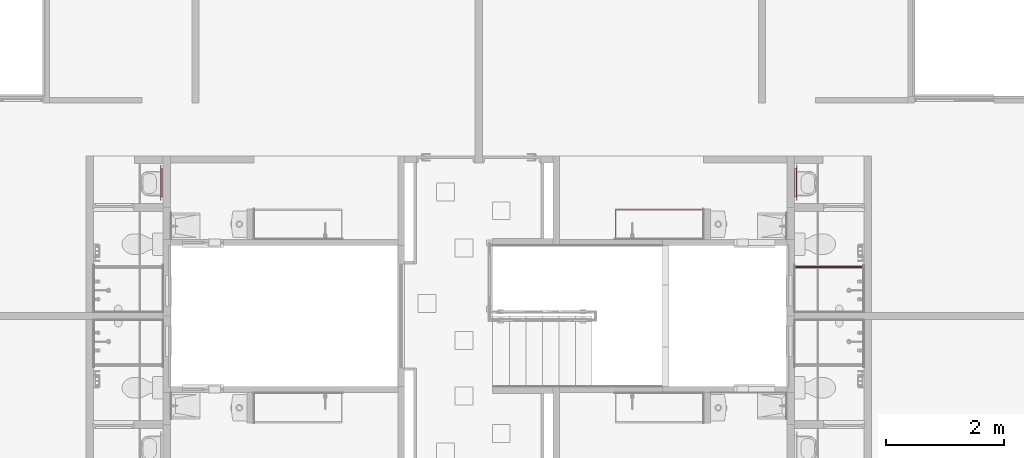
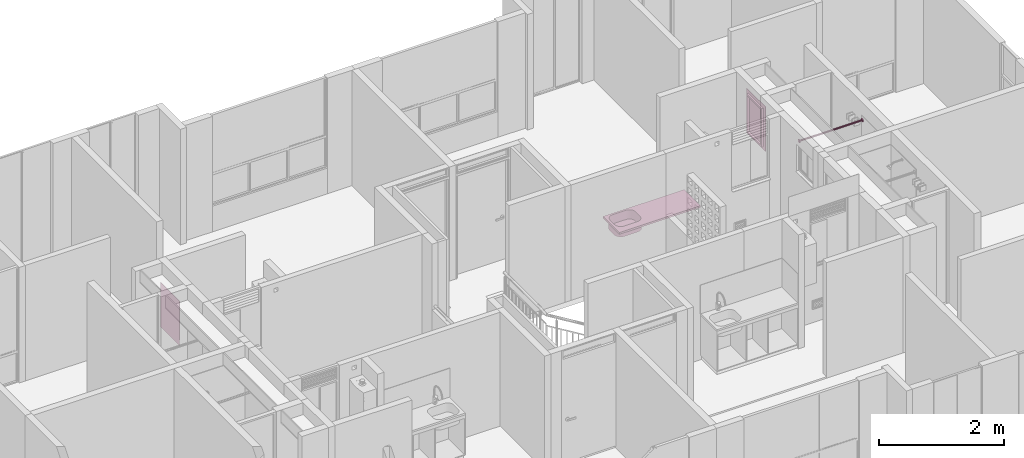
# One storey, part 43 of 47: 4 furniture elements.
"""IFC4 building model written with IfcOpenShell, lengths in metres."""

from ifc_helpers import new_model, entity, si_unit, converted_unit, derived_unit, direction, frame, origin, place, context, subcontext, project, spatial, arc, indexed_curve, outline, extrude, polygons, source, transform, mapped, material, constituent, constituent_set, type_object, type_shapes, element, save


model = new_model("IFC4")

# Units and contexts
model_context = context("Model", 3, precision=1e-05, world=origin(), true_north=direction((6.123031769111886e-17, 1.0)))
body_context = subcontext(model_context, "Body", "Model", "MODEL_VIEW")
ifc_project = project(units=[si_unit("LENGTHUNIT", "METRE"), si_unit("AREAUNIT", "SQUARE_METRE"), si_unit("VOLUMEUNIT", "CUBIC_METRE"), converted_unit("PLANEANGLEUNIT", "DEGREE", entity("IfcRatioMeasure", 0.017453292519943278), si_unit("PLANEANGLEUNIT", "RADIAN"), dimensions=[0, 0, 0, 0, 0, 0, 0]), si_unit("MASSUNIT", "GRAM", prefix="KILO"), derived_unit("MASSDENSITYUNIT", [(si_unit("MASSUNIT", "GRAM", prefix="KILO"), 1), (si_unit("LENGTHUNIT", "METRE"), -3)]), derived_unit("IONCONCENTRATIONUNIT", [(si_unit("MASSUNIT", "GRAM", prefix="KILO"), 1), (si_unit("LENGTHUNIT", "METRE"), -3)]), derived_unit("MOMENTOFINERTIAUNIT", [(si_unit("LENGTHUNIT", "METRE"), 4)]), si_unit("TIMEUNIT", "SECOND"), si_unit("FREQUENCYUNIT", "HERTZ"), si_unit("THERMODYNAMICTEMPERATUREUNIT", "DEGREE_CELSIUS"), derived_unit("THERMALTRANSMITTANCEUNIT", [(si_unit("MASSUNIT", "GRAM", prefix="KILO"), 1), (si_unit("THERMODYNAMICTEMPERATUREUNIT", "KELVIN"), -1), (si_unit("TIMEUNIT", "SECOND"), -3)]), derived_unit("THERMALCONDUCTANCEUNIT", [(si_unit("MASSUNIT", "GRAM", prefix="KILO"), 1), (si_unit("THERMODYNAMICTEMPERATUREUNIT", "KELVIN"), -1), (si_unit("TIMEUNIT", "SECOND"), -3), (si_unit("LENGTHUNIT", "METRE"), 1)]), derived_unit("VOLUMETRICFLOWRATEUNIT", [(si_unit("LENGTHUNIT", "METRE"), 3), (si_unit("TIMEUNIT", "SECOND"), -1)]), derived_unit("MASSFLOWRATEUNIT", [(si_unit("MASSUNIT", "GRAM", prefix="KILO"), 1), (si_unit("TIMEUNIT", "SECOND"), -1)]), derived_unit("ROTATIONALFREQUENCYUNIT", [(si_unit("TIMEUNIT", "SECOND"), -1)]), si_unit("ELECTRICCURRENTUNIT", "AMPERE"), si_unit("ELECTRICVOLTAGEUNIT", "VOLT"), si_unit("POWERUNIT", "WATT"), si_unit("FORCEUNIT", "NEWTON", prefix="KILO"), si_unit("ILLUMINANCEUNIT", "LUX"), si_unit("LUMINOUSFLUXUNIT", "LUMEN"), si_unit("LUMINOUSINTENSITYUNIT", "CANDELA"), derived_unit("USERDEFINED", [(si_unit("MASSUNIT", "GRAM", prefix="KILO"), -1), (si_unit("LENGTHUNIT", "METRE"), -2), (si_unit("TIMEUNIT", "SECOND"), 3), (si_unit("LUMINOUSFLUXUNIT", "LUMEN"), 1)]), derived_unit("USERDEFINED", [(si_unit("MASSUNIT", "GRAM", prefix="KILO"), 1), (si_unit("TIMEUNIT", "SECOND"), -3), (si_unit("LENGTHUNIT", "METRE"), 3), (si_unit("ELECTRICCURRENTUNIT", "AMPERE"), -2)]), derived_unit("SOUNDPOWERUNIT", [(si_unit("MASSUNIT", "GRAM", prefix="KILO"), 1), (si_unit("TIMEUNIT", "SECOND"), -3), (si_unit("LENGTHUNIT", "METRE"), 2)]), derived_unit("SOUNDPRESSUREUNIT", [(si_unit("MASSUNIT", "GRAM", prefix="KILO"), 1), (si_unit("LENGTHUNIT", "METRE"), -1), (si_unit("TIMEUNIT", "SECOND"), -2)]), derived_unit("LINEARVELOCITYUNIT", [(si_unit("LENGTHUNIT", "METRE"), 1), (si_unit("TIMEUNIT", "SECOND"), -1)]), si_unit("PRESSUREUNIT", "PASCAL"), derived_unit("USERDEFINED", [(si_unit("MASSUNIT", "GRAM", prefix="KILO"), 1), (si_unit("LENGTHUNIT", "METRE"), -2), (si_unit("TIMEUNIT", "SECOND"), -2)]), derived_unit("LINEARFORCEUNIT", [(si_unit("MASSUNIT", "GRAM", prefix="KILO"), 1), (si_unit("TIMEUNIT", "SECOND"), -2)]), derived_unit("PLANARFORCEUNIT", [(si_unit("MASSUNIT", "GRAM", prefix="KILO"), 1), (si_unit("LENGTHUNIT", "METRE"), -1), (si_unit("TIMEUNIT", "SECOND"), -2)]), derived_unit("SPECIFICHEATCAPACITYUNIT", [(si_unit("THERMODYNAMICTEMPERATUREUNIT", "KELVIN"), -1), (si_unit("LENGTHUNIT", "METRE"), 2), (si_unit("TIMEUNIT", "SECOND"), -2)]), derived_unit("HEATINGVALUEUNIT", [(si_unit("LENGTHUNIT", "METRE"), 2), (si_unit("TIMEUNIT", "SECOND"), -2)]), derived_unit("VAPORPERMEABILITYUNIT", [(si_unit("LENGTHUNIT", "METRE"), -1), (si_unit("TIMEUNIT", "SECOND"), 1)]), derived_unit("DYNAMICVISCOSITYUNIT", [(si_unit("MASSUNIT", "GRAM", prefix="KILO"), 1), (si_unit("TIMEUNIT", "SECOND"), -1), (si_unit("LENGTHUNIT", "METRE"), -1)]), derived_unit("THERMALEXPANSIONCOEFFICIENTUNIT", [(si_unit("THERMODYNAMICTEMPERATUREUNIT", "KELVIN"), -1)]), derived_unit("MODULUSOFELASTICITYUNIT", [(si_unit("MASSUNIT", "GRAM", prefix="KILO"), 1), (si_unit("LENGTHUNIT", "METRE"), -1), (si_unit("TIMEUNIT", "SECOND"), -2)]), derived_unit("ISOTHERMALMOISTURECAPACITYUNIT", [(si_unit("LENGTHUNIT", "METRE"), 3), (si_unit("MASSUNIT", "GRAM", prefix="KILO"), -1)]), derived_unit("MOISTUREDIFFUSIVITYUNIT", [(si_unit("TIMEUNIT", "SECOND"), -1), (si_unit("LENGTHUNIT", "METRE"), 2)])], contexts=[model_context])

# Site, building, storey
site_placement = place(None, origin())
site = spatial("IfcSite", under=ifc_project, at=site_placement, Name="Default", CompositionType="ELEMENT")
building_placement = place(site_placement, origin())
building = spatial("IfcBuilding", under=site, at=building_placement, CompositionType="ELEMENT")
storey_placement = place(building_placement, frame((0.0, 0.0, 11.750000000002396)))
storey = spatial("IfcBuildingStorey", under=building, at=storey_placement, Name="Nivel 6", CompositionType="ELEMENT", Elevation=11.750000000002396)

# Furniture
ifc_material_1 = material(Name="Aluminio", Category="Materials")
ifc_constituent_1 = constituent(ifc_material_1, Name="Aluminio", Category="Materials")
ifc_material_2 = material(Name="ESPEJO", Category="Materials")
ifc_constituent_2 = constituent(ifc_material_2, Name="ESPEJO", Category="Materials")
ifc_constituent_set_1 = constituent_set(constituents=[ifc_constituent_1, ifc_constituent_2])
ifc_constituent_3 = constituent(ifc_material_1, Name="Aluminio", Category="Materials")
ifc_constituent_4 = constituent(ifc_material_2, Name="ESPEJO", Category="Materials")
ifc_constituent_set_2 = constituent_set(constituents=[ifc_constituent_3, ifc_constituent_4])
furniture_type_1 = type_object("IfcFurnitureType", Name="E2050 - Espejo:E2050 - 0.60m x 0.87m - Espejo", AssemblyPlace="NOTDEFINED", PredefinedType="NOTDEFINED", material=ifc_constituent_set_2)
shared_shape_1 = source(origin(), body_context, "Body", "SweptSolid", [
    extrude(outline(indexed_curve([(-0.23999999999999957, -0.3749999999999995), (0.2399999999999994, -0.3749999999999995), (0.2399999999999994, 0.37499999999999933), (-0.23999999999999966, 0.3749999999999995), (-0.23999999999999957, -0.3749999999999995)], self_intersect=False), holes=[indexed_curve([(0.2149999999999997, -0.34999999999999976), (-0.21499999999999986, -0.34999999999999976), (-0.21499999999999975, 0.34999999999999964), (0.2149999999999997, 0.34999999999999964), (0.2149999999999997, -0.34999999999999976)], self_intersect=False)]), frame((0.12499999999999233, 0.062499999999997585, 1.485), z_axis=(0.0, 1.0, 0.0), x_axis=(1.0, 0.0, 0.0)), (0.0, 0.0, 1.0), 0.037500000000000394),
    extrude(outline(indexed_curve([(-0.00350000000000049, -0.30000000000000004), (0.00350000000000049, -0.30000000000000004), (0.00350000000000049, 0.30000000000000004), (-0.00350000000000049, 0.30000000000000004), (-0.00350000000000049, -0.30000000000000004)], self_intersect=False)), frame((0.1249999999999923, 0.10350000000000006, 1.05), z_axis=(0.0, 0.0, 1.0), x_axis=(0.0, 1.0, 0.0)), (0.0, 0.0, 1.0), 0.87),
])
type_shapes(furniture_type_1, [shared_shape_1])
furniture_1_placement = place(storey_placement, frame((14.620000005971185, -4.035000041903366, -0.020000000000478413), z_axis=(0.0, 0.0, 1.0), x_axis=(0.0, -1.0, 0.0)))
element("IfcFurniture", 1, at=furniture_1_placement, inside=storey, type_object=furniture_type_1, material=ifc_constituent_set_1, Name="E2050 - Espejo:E2050 - 0.60m x 0.87m - Espejo", ObjectType="E2050 - Espejo:E2050 - 0.60m x 0.87m - Espejo", PredefinedType="NOTDEFINED", context=body_context, shape_type="MappedRepresentation", body=[
    mapped(shared_shape_1, transform((0.0, 0.0, 0.0), scale=1.0)),
])
ifc_constituent_5 = constituent(ifc_material_1, Name="Aluminio", Category="Materials")
ifc_constituent_6 = constituent(ifc_material_2, Name="ESPEJO", Category="Materials")
ifc_constituent_set_3 = constituent_set(constituents=[ifc_constituent_5, ifc_constituent_6])
ifc_constituent_7 = constituent(ifc_material_1, Name="Aluminio", Category="Materials")
ifc_constituent_8 = constituent(ifc_material_2, Name="ESPEJO", Category="Materials")
ifc_constituent_set_4 = constituent_set(constituents=[ifc_constituent_7, ifc_constituent_8])
furniture_type_2 = type_object("IfcFurnitureType", Name="E2050 - Espejo:E2050 - 0.60m x 0.87m - Espejo", AssemblyPlace="NOTDEFINED", PredefinedType="NOTDEFINED", material=ifc_constituent_set_4)
shared_shape_2 = source(origin(), body_context, "Body", "SweptSolid", [
    extrude(outline(indexed_curve([(-0.3749999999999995, -0.2399999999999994), (0.37499999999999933, -0.23999999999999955), (0.3749999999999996, 0.2399999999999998), (-0.3749999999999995, 0.23999999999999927), (-0.3749999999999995, -0.2399999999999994)], self_intersect=False), holes=[indexed_curve([(-0.34999999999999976, 0.21499999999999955), (0.34999999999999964, 0.21499999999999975), (0.34999999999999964, -0.21499999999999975), (-0.34999999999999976, -0.21499999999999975), (-0.34999999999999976, 0.21499999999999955)], self_intersect=False)]), frame((0.12499999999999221, -0.09999999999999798, 1.485), z_axis=(0.0, 1.0, 0.0), x_axis=(0.0, 0.0, -1.0)), (0.0, 0.0, 1.0), 0.037500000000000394),
    extrude(outline(indexed_curve([(-0.30000000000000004, -0.00350000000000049), (0.30000000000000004, -0.00350000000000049), (0.30000000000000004, 0.00350000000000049), (-0.30000000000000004, 0.00350000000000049), (-0.30000000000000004, -0.00350000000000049)], self_intersect=False)), frame((0.1249999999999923, -0.10350000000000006, 1.05), z_axis=(0.0, 0.0, 1.0), x_axis=(-1.0, 0.0, 0.0)), (0.0, 0.0, 1.0), 0.87),
])
type_shapes(furniture_type_2, [shared_shape_2])
furniture_2_placement = place(storey_placement, frame((4.024999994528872, -4.035000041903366, -0.020000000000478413), z_axis=(0.0, 0.0, 1.0), x_axis=(0.0, -1.0, 0.0)))
element("IfcFurniture", 2, at=furniture_2_placement, inside=storey, type_object=furniture_type_2, material=ifc_constituent_set_3, Name="E2050 - Espejo:E2050 - 0.60m x 0.87m - Espejo", ObjectType="E2050 - Espejo:E2050 - 0.60m x 0.87m - Espejo", PredefinedType="NOTDEFINED", context=body_context, shape_type="MappedRepresentation", body=[
    mapped(shared_shape_2, transform((0.0, 0.0, 0.0), scale=1.0)),
])

# Space
space_1_placement = place(storey_placement, origin())
space_1 = spatial("IfcSpace", under=storey, at=space_1_placement, Name="334", CompositionType="ELEMENT", PredefinedType="SPACE")

# Furniture
ifc_material_3 = material(Name="<Unnamed>")
furniture_type_3 = type_object("IfcFurnitureType", Name="Barra baño:E2050- Barra Baño- Acero inoxidable", AssemblyPlace="NOTDEFINED", PredefinedType="NOTDEFINED", material=ifc_material_3)
shared_shape_3 = source(origin(), body_context, "Body", "SweptSolid", [
    extrude(outline(indexed_curve([(-0.025, 0.0), (-9.341026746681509e-17, -0.025), (0.025, 2.707167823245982e-16), (-1.316959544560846e-16, 0.025)], segments=[arc(1, 2, 3), arc(3, 4, 1)], self_intersect=False)), frame((-1.1599989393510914, 0.0, 1.8000000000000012), z_axis=(1.0, 0.0, 0.0), x_axis=(0.0, 1.0, 0.0)), (0.0, 0.0, 1.0), 0.005000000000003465),
    extrude(outline(indexed_curve([(-0.03, 0.0), (-1.1209232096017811e-16, -0.029999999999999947), (0.03, 2.707167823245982e-16), (-1.3138979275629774e-16, 0.029999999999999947)], segments=[arc(1, 2, 3), arc(3, 4, 1)], self_intersect=False)), frame((-1.164998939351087, 0.0, 1.8000000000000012), z_axis=(1.0, 0.0, 0.0), x_axis=(0.0, 1.0, 0.0)), (0.0, 0.0, 1.0), 0.0049999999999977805),
    extrude(outline(indexed_curve([(-0.0125, 0.0), (-4.6705133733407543e-17, -0.012499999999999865), (0.0125, 0.0), (7.654042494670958e-19, 0.012499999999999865)], segments=[arc(1, 2, 3), arc(3, 4, 1)], self_intersect=False)), frame((-1.1549989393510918, 0.0, 1.7999999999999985), z_axis=(1.0, 0.0, 0.0), x_axis=(0.0, 1.0, 0.0)), (0.0, 0.0, 1.0), 1.149998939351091),
    extrude(outline(indexed_curve([(-0.025, 0.0), (-2.2663703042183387e-16, -0.025), (0.025, 0.0), (1.5308084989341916e-18, 0.025)], segments=[arc(1, 2, 3), arc(3, 4, 1)], self_intersect=False)), frame((-0.005000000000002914, 0.0, 1.7999999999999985), z_axis=(1.0, 0.0, 0.0), x_axis=(0.0, 1.0, 0.0)), (0.0, 0.0, 1.0), 0.005000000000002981),
    extrude(outline(indexed_curve([(-0.03, 0.0), (-2.1867373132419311e-16, -0.029999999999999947), (0.03, 0.0), (1.8369701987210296e-18, 0.029999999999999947)], segments=[arc(1, 2, 3), arc(3, 4, 1)], self_intersect=False)), frame((0.0, 0.0, 1.7999999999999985), z_axis=(1.0, 0.0, 0.0), x_axis=(0.0, 1.0, 0.0)), (0.0, 0.0, 1.0), 0.00499999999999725),
])
type_shapes(furniture_type_3, [shared_shape_3])
furniture_3_placement = place(space_1_placement, frame((14.69250000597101, -5.590000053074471, 0.12999999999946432), z_axis=(0.0, 0.0, 1.0), x_axis=(-1.0, 0.0, 0.0)))
element("IfcFurniture", 3, at=furniture_3_placement, inside=space_1, type_object=furniture_type_3, material=ifc_material_3, Name="Barra baño:E2050- Barra Baño- Acero inoxidable", ObjectType="Barra baño:E2050- Barra Baño- Acero inoxidable", PredefinedType="NOTDEFINED", context=body_context, shape_type="MappedRepresentation", body=[
    mapped(shared_shape_3, transform((0.0, 0.0, 0.0), scale=1.0)),
])

# Space
space_2_placement = place(storey_placement, origin())
space_2 = spatial("IfcSpace", under=storey, at=space_2_placement, Name="337", CompositionType="ELEMENT", PredefinedType="SPACE")

# Furniture
ifc_material_4 = material(Name="Mesón cocina", Category="Materials")
furniture_type_4 = type_object("IfcFurnitureType", Name="E1060 - Meson Socoda Radiante - 1.50 X 0.52 - Acero inoxidable:E1060 - 1.50 x 0.52 - Meson de cocina, lavadero y estufa - Acero inoxidable", AssemblyPlace="NOTDEFINED", PredefinedType="NOTDEFINED", material=ifc_material_4)
shared_shape_4 = source(origin(), body_context, "Body", "Tessellation", [
    polygons([(0.7500000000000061, 0.2600000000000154, 0.03499999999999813), (-0.7499999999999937, 0.2600000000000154, 0.03499999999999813), (-0.7499999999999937, -0.2600000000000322, 0.03499999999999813), (0.7500000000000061, -0.2600000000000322, 0.03499999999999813), (0.23610399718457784, 0.03077661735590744, 0.03499999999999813), (0.23985215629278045, 0.05924671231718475, 0.03499999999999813), (0.2508412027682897, 0.08577661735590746, 0.03499999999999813), (0.2683222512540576, 0.10855836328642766, 0.03499999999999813), (0.2911039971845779, 0.1260394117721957, 0.03499999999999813), (0.31763390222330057, 0.13702845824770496, 0.03499999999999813), (0.3461039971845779, 0.1407766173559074, 0.03499999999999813), (0.593473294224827, 0.14077661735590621, 0.03499999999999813), (0.6219433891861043, 0.13702845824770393, 0.03499999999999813), (0.6484732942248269, 0.1260394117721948, 0.03499999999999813), (0.6712550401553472, 0.10855836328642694, 0.03499999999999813), (0.6887360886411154, 0.08577661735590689, 0.03499999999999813), (0.6997251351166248, 0.05924671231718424, 0.03499999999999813), (0.7034732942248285, 0.03077661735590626, 0.03499999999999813), (0.703473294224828, -0.11422338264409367, 0.03499999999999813), (0.6997251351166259, -0.14269347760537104, 0.03499999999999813), (0.6887360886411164, -0.1692233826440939, 0.03499999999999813), (0.6712550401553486, -0.1920051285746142, 0.03499999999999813), (0.6484732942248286, -0.20948617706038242, 0.03499999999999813), (0.6219433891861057, -0.22047522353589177, 0.03499999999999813), (0.5934732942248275, -0.22422338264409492, 0.03499999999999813), (0.3461039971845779, -0.22422338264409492, 0.03499999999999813), (0.31763390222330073, -0.22047522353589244, 0.03499999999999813), (0.2911039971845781, -0.20948617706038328, 0.03499999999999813), (0.2683222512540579, -0.1920051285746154, 0.03499999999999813), (0.2508412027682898, -0.1692233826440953, 0.03499999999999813), (0.23985215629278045, -0.14269347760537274, 0.03499999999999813), (0.23610399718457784, -0.11422338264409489, 0.03499999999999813), (0.7500000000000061, 0.2600000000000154, -1.8678232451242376e-15), (0.7500000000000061, -0.2600000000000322, -1.8678232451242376e-15), (-0.7499999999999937, -0.2600000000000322, -1.8678232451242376e-15), (-0.7499999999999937, 0.2600000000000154, -1.8678232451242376e-15), (0.5934732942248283, 0.1507766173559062, -1.8678232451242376e-15), (0.34610399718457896, 0.1507766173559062, -1.8678232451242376e-15), (0.31504571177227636, 0.1466877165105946, -1.8678232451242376e-15), (0.2861039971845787, 0.13469966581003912, -1.8678232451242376e-15), (0.2612511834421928, 0.11562943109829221, -1.8678232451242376e-15), (0.2421809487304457, 0.09077661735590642, -1.8678232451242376e-15), (0.23019289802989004, 0.06183490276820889, -1.8678232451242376e-15), (0.22610399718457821, 0.030776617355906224, -1.8678232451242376e-15), (0.22610399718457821, -0.11422338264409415, -1.8678232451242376e-15), (0.2301928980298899, -0.14528166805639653, -1.8678232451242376e-15), (0.24218094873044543, -0.17422338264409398, -1.8678232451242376e-15), (0.2612511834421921, -0.19907619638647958, -1.8678232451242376e-15), (0.2861039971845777, -0.2181464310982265, -1.8678232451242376e-15), (0.31504571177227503, -0.2301344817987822, -1.8678232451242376e-15), (0.3461039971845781, -0.23422338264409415, -1.8678232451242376e-15), (0.5934732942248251, -0.23422338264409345, -1.8678232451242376e-15), (0.6245315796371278, -0.2301344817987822, -1.8678232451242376e-15), (0.6534732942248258, -0.21814643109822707, -1.8678232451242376e-15), (0.6783261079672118, -0.19907619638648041, -1.8678232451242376e-15), (0.6973963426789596, -0.17422338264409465, -1.8678232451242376e-15), (0.7093843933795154, -0.14528166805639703, -1.8678232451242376e-15), (0.7134732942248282, -0.11422338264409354, -1.8678232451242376e-15), (0.7134732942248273, 0.030776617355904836, -1.8678232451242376e-15), (0.7093843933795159, 0.061834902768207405, -1.8678232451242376e-15), (0.6973963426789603, 0.09077661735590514, -1.8678232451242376e-15), (0.6783261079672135, 0.11562943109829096, -1.8678232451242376e-15), (0.6534732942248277, 0.13469966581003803, -1.8678232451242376e-15), (0.62453157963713, 0.1466877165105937, -1.8678232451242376e-15), (0.5934732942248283, 0.15077661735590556, -0.16000000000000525), (0.6245315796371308, 0.1466877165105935, -0.16000000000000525), (0.6534732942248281, 0.13469966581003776, -0.16000000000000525), (0.6783261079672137, 0.1156294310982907, -0.16000000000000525), (0.6973963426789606, 0.0907766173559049, -0.16000000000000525), (0.7093843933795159, 0.06183490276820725, -0.16000000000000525), (0.7134732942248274, 0.030776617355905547, -0.16000000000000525), (0.7134732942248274, -0.11422338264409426, -0.16000000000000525), (0.7093843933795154, -0.1452816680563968, -0.16000000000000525), (0.6973963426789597, -0.1742233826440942, -0.16000000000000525), (0.6783261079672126, -0.19907619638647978, -0.16000000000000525), (0.6534732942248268, -0.21814643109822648, -0.16000000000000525), (0.6245315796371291, -0.2301344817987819, -0.16000000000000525), (0.5934732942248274, -0.2342233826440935, -0.16000000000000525), (0.3461039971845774, -0.23422338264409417, -0.16000000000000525), (0.3150457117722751, -0.23013448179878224, -0.16000000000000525), (0.28610399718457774, -0.21814643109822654, -0.16000000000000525), (0.26125118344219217, -0.19907619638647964, -0.16000000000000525), (0.24218094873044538, -0.17422338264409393, -0.16000000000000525), (0.2301928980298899, -0.14528166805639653, -0.16000000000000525), (0.22610399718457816, -0.11422338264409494, -0.16000000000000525), (0.22610399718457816, 0.030776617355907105, -0.16000000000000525), (0.23019289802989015, 0.06183490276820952, -0.16000000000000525), (0.2421809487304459, 0.09077661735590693, -0.16000000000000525), (0.261251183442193, 0.11562943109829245, -0.16000000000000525), (0.2861039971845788, 0.13469966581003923, -0.16000000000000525), (0.31504571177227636, 0.1466877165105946, -0.16000000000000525), (0.3461039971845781, 0.1507766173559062, -0.16000000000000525), (0.3461039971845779, 0.14077661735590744, -0.14475899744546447), (0.31763390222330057, 0.13702845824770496, -0.14475899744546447), (0.2911039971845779, 0.1260394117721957, -0.14475899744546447), (0.2683222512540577, 0.10855836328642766, -0.14475899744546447), (0.25084120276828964, 0.08577661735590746, -0.14475899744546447), (0.2398521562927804, 0.05924671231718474, -0.14475899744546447), (0.23610399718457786, 0.03077661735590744, -0.14475899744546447), (0.23610399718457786, -0.11422338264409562, -0.14475899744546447), (0.23985215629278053, -0.14269347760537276, -0.14475899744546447), (0.25084120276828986, -0.16922338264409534, -0.14475899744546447), (0.2683222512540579, -0.19200512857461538, -0.14475899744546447), (0.2911039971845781, -0.20948617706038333, -0.14475899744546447), (0.31763390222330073, -0.22047522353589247, -0.14475899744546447), (0.3461039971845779, -0.2242233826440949, -0.14475899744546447), (0.5934732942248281, -0.22422338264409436, -0.14475899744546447), (0.6219433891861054, -0.22047522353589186, -0.14475899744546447), (0.6484732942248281, -0.20948617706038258, -0.14475899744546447), (0.6712550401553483, -0.19200512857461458, -0.14475899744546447), (0.6887360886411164, -0.16922338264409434, -0.14475899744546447), (0.6997251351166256, -0.14269347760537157, -0.14475899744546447), (0.7034732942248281, -0.11422338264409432, -0.14475899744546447), (0.7034732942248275, 0.030776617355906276, -0.14475899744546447), (0.699725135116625, 0.05924671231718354, -0.14475899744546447), (0.6887360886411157, 0.08577661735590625, -0.14475899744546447), (0.6712550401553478, 0.10855836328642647, -0.14475899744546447), (0.6484732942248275, 0.1260394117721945, -0.14475899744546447), (0.6219433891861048, 0.13702845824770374, -0.14475899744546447), (0.5934732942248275, 0.14077661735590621, -0.14475899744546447)], [[[1, 2, 3, 4], [17, 18, 19, 20, 21, 22, 23, 24, 25, 26, 27, 28, 29, 30, 31, 32, 5, 6, 7, 8, 9, 10, 11, 12, 13, 14, 15, 16]], [[118, 119, 120, 93, 94, 95, 96, 97, 98, 99, 100, 101, 102, 103, 104, 105, 106, 107, 108, 109, 110, 111, 112, 113, 114, 115, 116, 117]], [[36, 33, 34, 35], [43, 44, 45, 46, 47, 48, 49, 50, 51, 52, 53, 54, 55, 56, 57, 58, 59, 60, 61, 62, 63, 64, 37, 38, 39, 40, 41, 42]], [[89, 90, 91, 92, 65, 66, 67, 68, 69, 70, 71, 72, 73, 74, 75, 76, 77, 78, 79, 80, 81, 82, 83, 84, 85, 86, 87, 88]], [[2, 1, 33, 36]], [[38, 37, 65, 92]], [[106, 26, 25, 107]], [[3, 2, 36, 35]], [[45, 44, 86, 85]], [[114, 113, 19, 18]], [[4, 3, 35, 34]], [[52, 51, 79, 78]], [[120, 12, 11, 93]], [[1, 4, 34, 33]], [[59, 58, 72, 71]], [[99, 5, 32, 100]], [[39, 91, 90, 40]], [[109, 108, 24, 23]], [[40, 90, 89, 41]], [[110, 109, 23, 22]], [[92, 91, 39, 38]], [[25, 24, 108, 107]], [[42, 88, 87, 43]], [[112, 111, 21, 20]], [[43, 87, 86, 44]], [[113, 112, 20, 19]], [[41, 89, 88, 42]], [[21, 111, 110, 22]], [[46, 84, 83, 47]], [[17, 16, 116, 115]], [[47, 83, 82, 48]], [[16, 15, 117, 116]], [[85, 84, 46, 45]], [[115, 114, 18, 17]], [[49, 81, 80, 50]], [[119, 118, 14, 13]], [[50, 80, 79, 51]], [[120, 119, 13, 12]], [[48, 82, 81, 49]], [[14, 118, 117, 15]], [[53, 77, 76, 54]], [[95, 94, 10, 9]], [[54, 76, 75, 55]], [[96, 95, 9, 8]], [[78, 77, 53, 52]], [[11, 10, 94, 93]], [[56, 74, 73, 57]], [[98, 97, 7, 6]], [[57, 73, 72, 58]], [[99, 98, 6, 5]], [[55, 75, 74, 56]], [[7, 97, 96, 8]], [[60, 70, 69, 61]], [[102, 101, 31, 30]], [[61, 69, 68, 62]], [[103, 102, 30, 29]], [[71, 70, 60, 59]], [[32, 31, 101, 100]], [[63, 67, 66, 64]], [[105, 104, 28, 27]], [[64, 66, 65, 37]], [[106, 105, 27, 26]], [[62, 68, 67, 63]], [[28, 104, 103, 29]]], closed=True),
])
type_shapes(furniture_type_4, [shared_shape_4])
furniture_4_placement = place(space_2_placement, frame((12.392500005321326, -4.86500002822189, 0.8949999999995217), z_axis=(0.0, 0.0, 1.0), x_axis=(-1.0, 0.0, 0.0)))
element("IfcFurniture", 4, at=furniture_4_placement, inside=space_2, type_object=furniture_type_4, material=ifc_material_4, Name="E1060 - Meson Socoda Radiante - 1.50 X 0.52 - Acero inoxidable:E1060 - 1.50 x 0.52 - Meson de cocina, lavadero y estufa - Acero inoxidable", ObjectType="E1060 - Meson Socoda Radiante - 1.50 X 0.52 - Acero inoxidable:E1060 - 1.50 x 0.52 - Meson de cocina, lavadero y estufa - Acero inoxidable", PredefinedType="NOTDEFINED", context=body_context, shape_type="MappedRepresentation", body=[
    mapped(shared_shape_4, transform((0.0, 0.0, 0.0), scale=1.0)),
])

save(model, "model.ifc")
